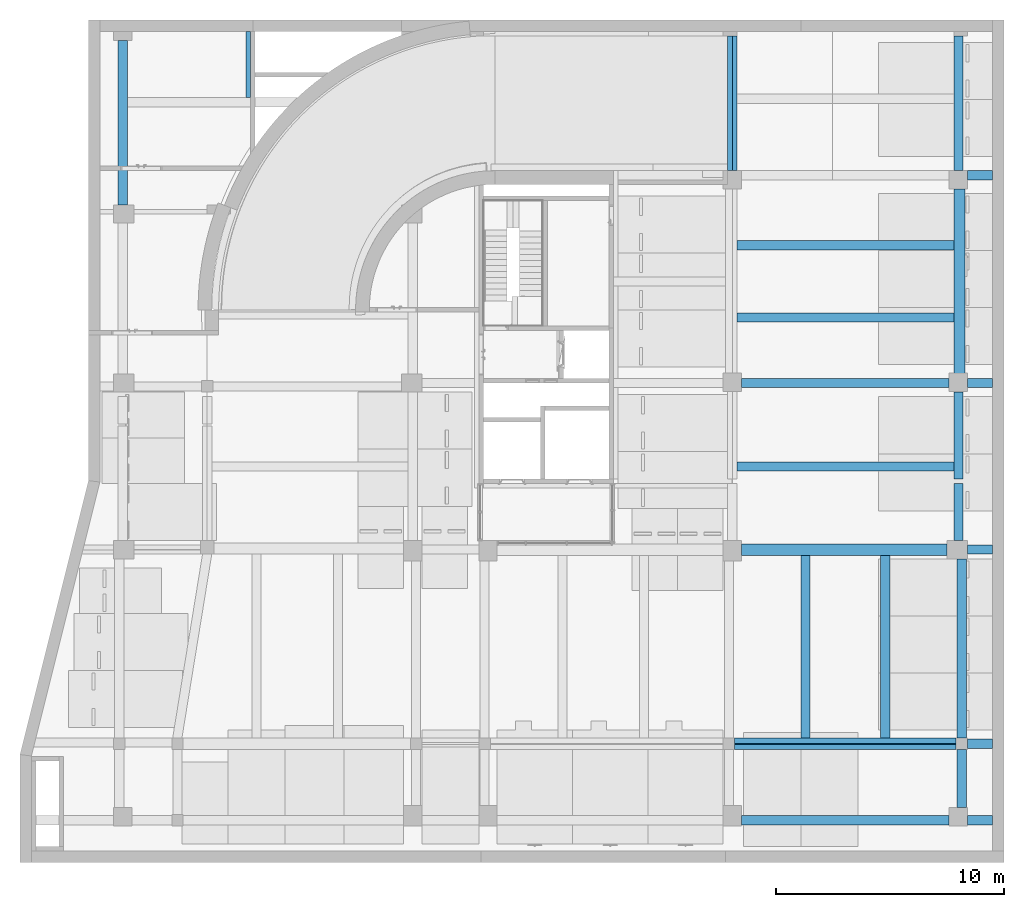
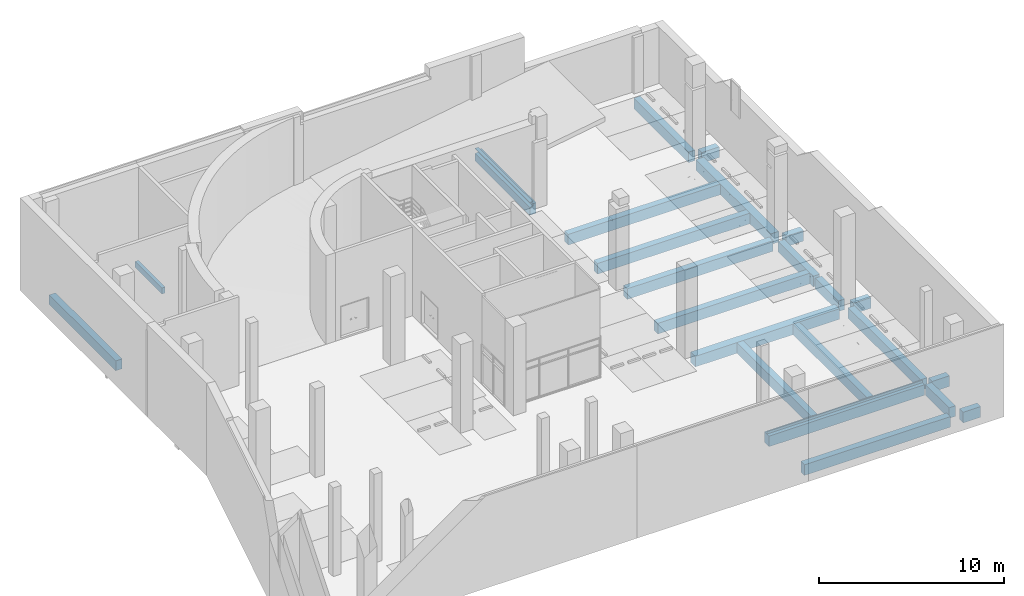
# One storey, part 4 of 29: 22 beams.
"""IFC2X3 building model written with IfcOpenShell, lengths in millimetres."""

from ifc_helpers import new_model, entity, si_unit, converted_unit, derived_unit, direction, frame, frame_2d, origin, origin_2d_with_axis, place, context, subcontext, project, spatial, polyline, rectangle, outline, extrude, source, transform, mapped, material, material_list, type_object, type_shapes, element, save


model = new_model("IFC2X3")

# Units and contexts
model_context = context("Model", 3, precision=0.01, world=origin(), true_north=direction((6.123031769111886e-17, 1.0)))
body_context = subcontext(model_context, "Body", "Model", "MODEL_VIEW")
ifc_project = project(units=[si_unit("LENGTHUNIT", "METRE", prefix="MILLI"), si_unit("AREAUNIT", "SQUARE_METRE"), si_unit("VOLUMEUNIT", "CUBIC_METRE"), converted_unit("PLANEANGLEUNIT", "DEGREE", entity("IfcRatioMeasure", 0.017453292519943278), si_unit("PLANEANGLEUNIT", "RADIAN"), dimensions=[0, 0, 0, 0, 0, 0, 0]), si_unit("MASSUNIT", "GRAM", prefix="KILO"), derived_unit("MASSDENSITYUNIT", [(si_unit("MASSUNIT", "GRAM", prefix="KILO"), 1), (si_unit("LENGTHUNIT", "METRE"), -3)]), derived_unit("MOMENTOFINERTIAUNIT", [(si_unit("LENGTHUNIT", "METRE"), 4)]), si_unit("TIMEUNIT", "SECOND"), si_unit("FREQUENCYUNIT", "HERTZ"), si_unit("THERMODYNAMICTEMPERATUREUNIT", "DEGREE_CELSIUS"), derived_unit("THERMALTRANSMITTANCEUNIT", [(si_unit("MASSUNIT", "GRAM", prefix="KILO"), 1), (si_unit("THERMODYNAMICTEMPERATUREUNIT", "KELVIN"), -1), (si_unit("TIMEUNIT", "SECOND"), -3)]), derived_unit("VOLUMETRICFLOWRATEUNIT", [(si_unit("LENGTHUNIT", "METRE"), 3), (si_unit("TIMEUNIT", "SECOND"), -1)]), derived_unit("MASSFLOWRATEUNIT", [(si_unit("MASSUNIT", "GRAM", prefix="KILO"), 1), (si_unit("TIMEUNIT", "SECOND"), -1)]), derived_unit("ROTATIONALFREQUENCYUNIT", [(si_unit("TIMEUNIT", "SECOND"), -1)]), si_unit("ELECTRICCURRENTUNIT", "AMPERE"), si_unit("ELECTRICVOLTAGEUNIT", "VOLT"), si_unit("POWERUNIT", "WATT"), si_unit("FORCEUNIT", "NEWTON", prefix="KILO"), si_unit("ILLUMINANCEUNIT", "LUX"), si_unit("LUMINOUSFLUXUNIT", "LUMEN"), si_unit("LUMINOUSINTENSITYUNIT", "CANDELA"), derived_unit("USERDEFINED", [(si_unit("MASSUNIT", "GRAM", prefix="KILO"), -1), (si_unit("LENGTHUNIT", "METRE"), -2), (si_unit("TIMEUNIT", "SECOND"), 3), (si_unit("LUMINOUSFLUXUNIT", "LUMEN"), 1)]), derived_unit("SOUNDPOWERUNIT", [(si_unit("MASSUNIT", "GRAM", prefix="KILO"), 1), (si_unit("LENGTHUNIT", "METRE"), 2), (si_unit("TIMEUNIT", "SECOND"), -3)]), derived_unit("SOUNDPRESSUREUNIT", [(si_unit("MASSUNIT", "GRAM", prefix="KILO"), 1), (si_unit("LENGTHUNIT", "METRE"), -1), (si_unit("TIMEUNIT", "SECOND"), -2)]), derived_unit("LINEARVELOCITYUNIT", [(si_unit("LENGTHUNIT", "METRE"), 1), (si_unit("TIMEUNIT", "SECOND"), -1)]), si_unit("PRESSUREUNIT", "PASCAL"), derived_unit("USERDEFINED", [(si_unit("LENGTHUNIT", "METRE"), -2), (si_unit("MASSUNIT", "GRAM", prefix="KILO"), 1), (si_unit("TIMEUNIT", "SECOND"), -2)]), derived_unit("LINEARFORCEUNIT", [(si_unit("MASSUNIT", "GRAM", prefix="KILO"), 1), (si_unit("LENGTHUNIT", "METRE"), 1), (si_unit("TIMEUNIT", "SECOND"), -2), (si_unit("LENGTHUNIT", "METRE"), -1)]), derived_unit("PLANARFORCEUNIT", [(si_unit("MASSUNIT", "GRAM", prefix="KILO"), 1), (si_unit("LENGTHUNIT", "METRE"), 1), (si_unit("TIMEUNIT", "SECOND"), -2), (si_unit("LENGTHUNIT", "METRE"), -2)])], contexts=[model_context])

# Site, building, storey
site_placement = place(None, frame((-14167.972527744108, -657.2125860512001, 0.0)))
site = spatial("IfcSite", under=ifc_project, at=site_placement, Name="Default", CompositionType="ELEMENT")
building_placement = place(site_placement, origin())
building = spatial("IfcBuilding", under=site, at=building_placement, Name="Sample Building", CompositionType="ELEMENT")
storey_placement = place(building_placement, frame((0.0, 0.0, -6100.0)))
storey = spatial("IfcBuildingStorey", under=building, at=storey_placement, Name="지하1층", CompositionType="ELEMENT", Elevation=-6099.999999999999)

# Beams
ifc_material = material(Name="KBIMS-콘크리트")
beam_type_1 = type_object("IfcBeamType", Name="BM111-철근콘크리트구조 보:BM110-철근 콘크리트구조 보_400 x 850_B1-1G3", PredefinedType="NOTDEFINED")
beam_1_placement = place(storey_placement, frame((52817.97249113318, 807.212604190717, 0.0), z_axis=(0.0, 0.0, 1.0), x_axis=(-1.0, 0.0, 0.0)))
element("IfcBeam", 1, at=beam_1_placement, inside=storey, type_object=beam_type_1, material=ifc_material, Name="BM111-철근콘크리트구조 보:BM110-철근 콘크리트구조 보_400 x 850_B1-1G3", ObjectType="BM111-철근콘크리트구조 보:BM110-철근 콘크리트구조 보_400 x 850_B1-1G3", context=body_context, shape_type="SweptSolid", body=[
    extrude(rectangle(XDim=700.0000000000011, YDim=400.0000000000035, at=frame_2d((0.0, -4.405364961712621e-13), x_axis=(1.0, 0.0))), frame((250.0, 0.0, -500.0), z_axis=(1.0, 0.0, 0.0), x_axis=(0.0, 0.0, -1.0)), (0.0, 0.0, 1.0), 1100.0086530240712),
])
beam_2_placement = place(storey_placement, frame((52817.97249113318, 4157.212692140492, 0.0), z_axis=(0.0, 0.0, 1.0), x_axis=(-1.0, 0.0, 0.0)))
element("IfcBeam", 2, at=beam_2_placement, inside=storey, type_object=beam_type_1, material=ifc_material, Name="BM111-철근콘크리트구조 보:BM110-철근 콘크리트구조 보_400 x 850_B1-1G3", ObjectType="BM111-철근콘크리트구조 보:BM110-철근 콘크리트구조 보_400 x 850_B1-1G3", context=body_context, shape_type="SweptSolid", body=[
    extrude(rectangle(XDim=700.0000000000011, YDim=400.00000000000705, at=frame_2d((0.0, 8.100187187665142e-13), x_axis=(1.0, 0.0))), frame((250.0, 0.0, -500.0), z_axis=(1.0, 0.0, 0.0), x_axis=(0.0, 0.0, -1.0)), (0.0, 0.0, 1.0), 1100.0086530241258),
])
beam_3_placement = place(storey_placement, frame((51067.96288544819, 12657.212617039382, 0.0)))
element("IfcBeam", 3, at=beam_3_placement, inside=storey, type_object=beam_type_1, material=ifc_material, Name="BM111-철근콘크리트구조 보:BM110-철근 콘크리트구조 보_400 x 850_B1-1G3", ObjectType="BM111-철근콘크리트구조 보:BM110-철근 콘크리트구조 보_400 x 850_B1-1G3", context=body_context, shape_type="SweptSolid", body=[
    extrude(rectangle(XDim=700.0000000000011, YDim=400.0000000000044, at=origin_2d_with_axis()), frame((400.000952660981, 0.0, -500.0), z_axis=(1.0, 0.0, 0.0), x_axis=(0.0, 0.0, -1.0)), (0.0, 0.0, 1.0), 1100.0086530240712),
])
beam_4_placement = place(storey_placement, frame((51467.95513594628, 19957.212617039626, 0.0)))
element("IfcBeam", 4, at=beam_4_placement, inside=storey, type_object=beam_type_1, material=ifc_material, Name="BM111-철근콘크리트구조 보:BM110-철근 콘크리트구조 보_400 x 850_B1-1G3", ObjectType="BM111-철근콘크리트구조 보:BM110-철근 콘크리트구조 보_400 x 850_B1-1G3", context=body_context, shape_type="SweptSolid", body=[
    extrude(rectangle(XDim=700.0000000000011, YDim=400.0000000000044, at=origin_2d_with_axis()), frame((0.0, 0.0, -500.0), z_axis=(1.0, 0.0, 0.0), x_axis=(0.0, 0.0, -1.0)), (0.0, 0.0, 1.0), 1100.0173551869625),
])
beam_5_placement = place(storey_placement, frame((51217.96383810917, 1357.2127049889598, 0.0), z_axis=(0.0, 0.0, 1.0), x_axis=(0.0, 1.0, 0.0)))
element("IfcBeam", 5, at=beam_5_placement, inside=storey, type_object=beam_type_1, material=ifc_material, Name="BM111-철근콘크리트구조 보:BM110-철근 콘크리트구조 보_400 x 850_B1-1G3", ObjectType="BM111-철근콘크리트구조 보:BM110-철근 콘크리트구조 보_400 x 850_B1-1G3", context=body_context, shape_type="SweptSolid", body=[
    extrude(rectangle(XDim=700.0000000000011, YDim=400.0000000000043, at=frame_2d((0.0, 4.334310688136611e-12), x_axis=(1.0, 0.0))), frame((0.0, 0.0, -500.0), z_axis=(1.0, 0.0, 0.0), x_axis=(0.0, 0.0, -1.0)), (0.0, 0.0, 1.0), 2549.999987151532),
])
beam_6_placement = place(storey_placement, frame((51467.9551359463, 29057.21261703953, 0.0)))
element("IfcBeam", 6, at=beam_6_placement, inside=storey, type_object=beam_type_1, material=ifc_material, Name="BM111-철근콘크리트구조 보:BM110-철근 콘크리트구조 보_400 x 850_B1-1G3", ObjectType="BM111-철근콘크리트구조 보:BM110-철근 콘크리트구조 보_400 x 850_B1-1G3", context=body_context, shape_type="SweptSolid", body=[
    extrude(rectangle(XDim=700.0000000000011, YDim=400.0000000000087, at=frame_2d((0.0, -2.1600499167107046e-12), x_axis=(1.0, 0.0))), frame((0.0, 0.0, -500.0), z_axis=(1.0, 0.0, 0.0), x_axis=(0.0, 0.0, -1.0)), (0.0, 0.0, 1.0), 1100.0173551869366),
])
beam_type_2 = type_object("IfcBeamType", Name="BM111-철근콘크리트구조 보:BM110-철근 콘크리트구조 보_400 x 850_B1-1G1", PredefinedType="NOTDEFINED")
beam_7_placement = place(storey_placement, frame((51117.95513594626, 807.212604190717, 0.0), z_axis=(0.0, 0.0, 1.0), x_axis=(-1.0, 0.0, 0.0)))
element("IfcBeam", 7, at=beam_7_placement, inside=storey, type_object=beam_type_2, material=ifc_material, Name="BM111-철근콘크리트구조 보:BM110-철근 콘크리트구조 보_400 x 850_B1-1G1", ObjectType="BM111-철근콘크리트구조 보:BM110-철근 콘크리트구조 보_400 x 850_B1-1G1", context=body_context, shape_type="SweptSolid", body=[
    extrude(rectangle(XDim=700.0000000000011, YDim=400.00000000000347, at=frame_2d((0.0, -1.7053025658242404e-13), x_axis=(1.0, 0.0))), frame((449.9912978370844, 0.0, -500.0), z_axis=(1.0, 0.0, 0.0), x_axis=(0.0, 0.0, -1.0)), (0.0, 0.0, 1.0), 9098.5749005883),
])
beam_8_placement = place(storey_placement, frame((41560.65512202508, 19957.212617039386, 0.0)))
element("IfcBeam", 8, at=beam_8_placement, inside=storey, type_object=beam_type_2, material=ifc_material, Name="BM111-철근콘크리트구조 보:BM110-철근 콘크리트구조 보_400 x 850_B1-1G1", ObjectType="BM111-철근콘크리트구조 보:BM110-철근 콘크리트구조 보_400 x 850_B1-1G1", context=body_context, shape_type="SweptSolid", body=[
    extrude(rectangle(XDim=700.0000000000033, YDim=400.00000000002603, at=frame_2d((-1.0800249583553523e-12, -1.5162981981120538e-11), x_axis=(1.0, 0.0))), frame((7.300019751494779, 0.0, -500.0), z_axis=(1.0, 0.0, 0.0), x_axis=(0.0, 0.0, -1.0)), (0.0, 0.0, 1.0), 9100.008723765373),
])
beam_type_3 = type_object("IfcBeamType", Name="BM111-철근콘크리트구조 보:BM110-철근 콘크리트구조 보_500 x 850_B1-1G5", PredefinedType="NOTDEFINED")
beam_9_placement = place(storey_placement, frame((51117.95513594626, 4157.2126921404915, 0.0), z_axis=(0.0, 0.0, 1.0), x_axis=(-1.0, 0.0, 0.0)))
element("IfcBeam", 9, at=beam_9_placement, inside=storey, type_object=beam_type_3, material=ifc_material, Name="BM111-철근콘크리트구조 보:BM110-철근 콘크리트구조 보_500 x 850_B1-1G5", ObjectType="BM111-철근콘크리트구조 보:BM110-철근 콘크리트구조 보_500 x 850_B1-1G5", context=body_context, shape_type="SweptSolid", body=[
    extrude(outline(polyline([(-137.5000000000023, -256.0635451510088), (562.500000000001, -256.0635451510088), (562.500000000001, 243.93645484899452), (-137.50000000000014, 243.93645484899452), (-137.50000000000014, 18.190326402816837), (-287.4999999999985, 18.190326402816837), (-287.4999999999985, -6.063236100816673), (-137.5000000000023, -6.063236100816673), (-137.5000000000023, -256.0635451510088)])), frame((149.99129783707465, 6.063545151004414, -287.5000000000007), z_axis=(1.0, 0.0, 0.0), x_axis=(0.0, 0.0, -1.0)), (0.0, 0.0, 1.0), 9700.008696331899),
])
beam_10_placement = place(storey_placement, frame((51067.96288544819, 12657.212617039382, 0.0), z_axis=(0.0, 0.0, 1.0), x_axis=(-1.0, 0.0, 0.0)))
element("IfcBeam", 10, at=beam_10_placement, inside=storey, type_object=beam_type_3, material=ifc_material, Name="BM111-철근콘크리트구조 보:BM110-철근 콘크리트구조 보_500 x 850_B1-1G5", ObjectType="BM111-철근콘크리트구조 보:BM110-철근 콘크리트구조 보_500 x 850_B1-1G5", context=body_context, shape_type="SweptSolid", body=[
    extrude(rectangle(XDim=700.0000000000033, YDim=500.0000000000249, at=frame_2d((-1.0800249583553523e-12, -1.5162981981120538e-11), x_axis=(1.0, 0.0))), frame((499.99904733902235, 0.0, -500.0), z_axis=(1.0, 0.0, 0.0), x_axis=(0.0, 0.0, -1.0)), (0.0, 0.0, 1.0), 9000.008803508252),
])
beam_11_placement = place(storey_placement, frame((51117.95547132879, 28457.212620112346, 0.0), z_axis=(0.0, 0.0, 1.0), x_axis=(0.0, -1.0, 0.0)))
element("IfcBeam", 11, at=beam_11_placement, inside=storey, type_object=beam_type_3, material=ifc_material, Name="BM111-철근콘크리트구조 보:BM110-철근 콘크리트구조 보_500 x 850_B1-1G5", ObjectType="BM111-철근콘크리트구조 보:BM110-철근 콘크리트구조 보_500 x 850_B1-1G5", context=body_context, shape_type="SweptSolid", body=[
    extrude(rectangle(XDim=700.0000000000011, YDim=499.999999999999, at=frame_2d((0.0, -4.334310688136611e-12), x_axis=(1.0, 0.0))), frame((0.0, 0.0, -500.0), z_axis=(1.0, 0.0, 0.0), x_axis=(0.0, 0.0, -1.0)), (0.0, 0.0, 1.0), 8100.000003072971),
])
ifc_material_list = material_list([ifc_material, ifc_material])
beam_type_4 = type_object("IfcBeamType", Name="BM111-철근콘크리트구조 보:BM110-철근 콘크리트구조 보_400 x 850_B1-1G2", PredefinedType="BEAM", material=ifc_material_list)
beam_12_placement = place(storey_placement, frame((51217.96383810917, 12657.212617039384, 0.0), z_axis=(0.0, 0.0, 1.0), x_axis=(0.0, -1.0, 0.0)))
element("IfcBeam", 12, at=beam_12_placement, inside=storey, type_object=beam_type_4, material=ifc_material, Name="BM111-철근콘크리트구조 보:BM110-철근 콘크리트구조 보_400 x 850_B1-1G2", ObjectType="BM111-철근콘크리트구조 보:BM110-철근 콘크리트구조 보_400 x 850_B1-1G2", context=body_context, shape_type="SweptSolid", body=[
    extrude(rectangle(XDim=700.0000000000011, YDim=400.0000000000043, at=frame_2d((0.0, 4.334310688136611e-12), x_axis=(1.0, 0.0))), frame((399.99957810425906, 0.0, -500.0), z_axis=(1.0, 0.0, 0.0), x_axis=(0.0, 0.0, -1.0)), (0.0, 0.0, 1.0), 7850.000346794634),
])
beam_type_5 = type_object("IfcBeamType", Name="BM111-철근콘크리트구조 보:BM110-철근 콘크리트구조 보_400 x 800_B1-1B2", PredefinedType="NOTDEFINED")
beam_13_placement = place(storey_placement, frame((44367.9464487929, 12657.212617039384, 0.0), z_axis=(0.0, 0.0, 1.0), x_axis=(0.0, -1.0, 0.0)))
element("IfcBeam", 13, at=beam_13_placement, inside=storey, type_object=beam_type_5, material=ifc_material, Name="BM111-철근콘크리트구조 보:BM110-철근 콘크리트구조 보_400 x 800_B1-1B2", ObjectType="BM111-철근콘크리트구조 보:BM110-철근 콘크리트구조 보_400 x 800_B1-1B2", context=body_context, shape_type="SweptSolid", body=[
    extrude(rectangle(XDim=700.0000000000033, YDim=400.0000000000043, at=frame_2d((-1.0800249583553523e-12, 0.0), x_axis=(1.0, 0.0))), frame((250.0, 0.0, -500.0), z_axis=(1.0, 0.0, 0.0), x_axis=(0.0, 0.0, -1.0)), (0.0, 0.0, 1.0), 7999.999924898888),
])
beam_14_placement = place(storey_placement, frame((47867.946448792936, 12657.212617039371, 0.0), z_axis=(0.0, 0.0, 1.0), x_axis=(0.0, -1.0, 0.0)))
element("IfcBeam", 14, at=beam_14_placement, inside=storey, type_object=beam_type_5, material=ifc_material, Name="BM111-철근콘크리트구조 보:BM110-철근 콘크리트구조 보_400 x 800_B1-1B2", ObjectType="BM111-철근콘크리트구조 보:BM110-철근 콘크리트구조 보_400 x 800_B1-1B2", context=body_context, shape_type="SweptSolid", body=[
    extrude(rectangle(XDim=700.0000000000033, YDim=400.0000000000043, at=frame_2d((-1.0800249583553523e-12, 0.0), x_axis=(1.0, 0.0))), frame((250.0, 0.0, -500.0), z_axis=(1.0, 0.0, 0.0), x_axis=(0.0, 0.0, -1.0)), (0.0, 0.0, 1.0), 7999.99992489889),
])
beam_type_6 = type_object("IfcBeamType", Name="BM111-철근콘크리트구조 보:BM110-철근 콘크리트구조 보_400 x 850_B1-1G4", PredefinedType="NOTDEFINED")
beam_15_placement = place(storey_placement, frame((51067.962965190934, 29257.21278986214, 0.0), z_axis=(0.0, 0.0, 1.0), x_axis=(0.0, 1.0, 0.0)))
element("IfcBeam", 15, at=beam_15_placement, inside=storey, type_object=beam_type_6, material=ifc_material, Name="BM111-철근콘크리트구조 보:BM110-철근 콘크리트구조 보_400 x 850_B1-1G4", ObjectType="BM111-철근콘크리트구조 보:BM110-철근 콘크리트구조 보_400 x 850_B1-1G4", context=body_context, shape_type="SweptSolid", body=[
    extrude(rectangle(XDim=700.0000000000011, YDim=400.0000000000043, at=frame_2d((0.0, 4.334310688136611e-12), x_axis=(1.0, 0.0))), frame((0.0, 0.0, -500.0), z_axis=(1.0, 0.0, 0.0), x_axis=(0.0, 0.0, -1.0)), (0.0, 0.0, 1.0), 5900.000000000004),
])
beam_type_7 = type_object("IfcBeamType", Name="BM111-철근콘크리트구조 보:BM110-철근 콘크리트구조 보_400 x 850_B1-1B1", PredefinedType="BEAM", material=ifc_material)
beam_16_placement = place(storey_placement, frame((41167.96296519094, 16307.21261704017, 0.0)))
element("IfcBeam", 16, at=beam_16_placement, inside=storey, type_object=beam_type_7, material=ifc_material, Name="BM111-철근콘크리트구조 보:BM110-철근 콘크리트구조 보_400 x 850_B1-1B1", ObjectType="BM111-철근콘크리트구조 보:BM110-철근 콘크리트구조 보_400 x 850_B1-1B1", context=body_context, shape_type="SweptSolid", body=[
    extrude(rectangle(XDim=700.0000000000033, YDim=400.00000000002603, at=frame_2d((-1.0800249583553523e-12, -1.7323031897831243e-11), x_axis=(1.0, 0.0))), frame((200.0, 0.0, -500.0), z_axis=(1.0, 0.0, 0.0), x_axis=(0.0, 0.0, -1.0)), (0.0, 0.0, 1.0), 9500.000000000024),
])
beam_17_placement = place(storey_placement, frame((41117.962965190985, 22823.87928370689, 0.0)))
element("IfcBeam", 17, at=beam_17_placement, inside=storey, type_object=beam_type_7, material=ifc_material, Name="BM111-철근콘크리트구조 보:BM110-철근 콘크리트구조 보_400 x 850_B1-1B1", ObjectType="BM111-철근콘크리트구조 보:BM110-철근 콘크리트구조 보_400 x 850_B1-1B1", context=body_context, shape_type="SweptSolid", body=[
    extrude(rectangle(XDim=700.0000000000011, YDim=400.00000000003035, at=frame_2d((0.0, -1.7323031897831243e-11), x_axis=(1.0, 0.0))), frame((250.0, 0.0, -500.0), z_axis=(1.0, 0.0, 0.0), x_axis=(0.0, 0.0, -1.0)), (0.0, 0.0, 1.0), 9499.992506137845),
])
beam_18_placement = place(storey_placement, frame((41117.96296519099, 25990.54595037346, 0.0)))
element("IfcBeam", 18, at=beam_18_placement, inside=storey, type_object=beam_type_7, material=ifc_material, Name="BM111-철근콘크리트구조 보:BM110-철근 콘크리트구조 보_400 x 850_B1-1B1", ObjectType="BM111-철근콘크리트구조 보:BM110-철근 콘크리트구조 보_400 x 850_B1-1B1", context=body_context, shape_type="SweptSolid", body=[
    extrude(rectangle(XDim=700.0000000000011, YDim=400.0000000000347, at=frame_2d((0.0, -2.3817392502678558e-11), x_axis=(1.0, 0.0))), frame((250.0, 0.0, -500.0), z_axis=(1.0, 0.0, 0.0), x_axis=(0.0, 0.0, -1.0)), (0.0, 0.0, 1.0), 9499.992506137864),
])
beam_type_8 = type_object("IfcBeamType", Name="BM111-철근콘크리트구조 보:BM110-철근 콘크리트구조 보_400 x 850_B1-1WG1", PredefinedType="BEAM", material=ifc_material)
beam_19_placement = place(storey_placement, frame((14467.955105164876, 27157.21261704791, 0.0), z_axis=(0.0, 0.0, 1.0), x_axis=(0.0, 1.0, 0.0)))
element("IfcBeam", 19, at=beam_19_placement, inside=storey, type_object=beam_type_8, material=ifc_material, Name="BM111-철근콘크리트구조 보:BM110-철근 콘크리트구조 보_400 x 850_B1-1WG1", ObjectType="BM111-철근콘크리트구조 보:BM110-철근 콘크리트구조 보_400 x 850_B1-1WG1", context=body_context, shape_type="SweptSolid", body=[
    extrude(rectangle(XDim=650.0000000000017, YDim=400.0000000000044, at=frame_2d((1.0800249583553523e-12, 0.0), x_axis=(1.0, 0.0))), frame((600.0, 0.0, -525.0), z_axis=(1.0, 0.0, 0.0), x_axis=(0.0, 0.0, -1.0)), (0.0, 0.0, 1.0), 7199.999972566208),
])
beam_type_9 = type_object("IfcBeamType", Name="BM111-철근콘크리트구조 보:BM110-철근 콘크리트구조 보_400 x 850_B1-1G4", PredefinedType="BEAM", material=ifc_material)
shared_shape_1 = source(origin(), body_context, "Body", "SweptSolid", [
    extrude(rectangle(XDim=700.0000000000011, YDim=400.0000000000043, at=frame_2d((-4.334310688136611e-12, 1.0800249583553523e-12), x_axis=(0.0, 1.0))), frame((51067.96296519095, 15757.21258605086, -6600.0), z_axis=(0.0, 1.0, 0.0), x_axis=(-1.0, 0.0, 0.0)), (0.0, 0.0, 1.0), 3800.00003098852),
    extrude(rectangle(XDim=700.0000000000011, YDim=400.0000000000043, at=frame_2d((-4.334310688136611e-12, 1.0800249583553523e-12), x_axis=(0.0, 1.0))), frame((51067.962965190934, 13057.213038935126, -6600.0), z_axis=(0.0, 1.0, 0.0), x_axis=(-1.0, 0.0, 0.0)), (0.0, 0.0, 1.0), 2499.9995471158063),
])
type_shapes(beam_type_9, [shared_shape_1])
beam_20_placement = place(storey_placement, frame((0.0, 0.0, 6100.0)))
element("IfcBeam", 20, at=beam_20_placement, inside=storey, type_object=beam_type_9, material=ifc_material, Name="BM111-철근콘크리트구조 보:BM110-철근 콘크리트구조 보_400 x 850_B1-1G4", ObjectType="BM111-철근콘크리트구조 보:BM110-철근 콘크리트구조 보_400 x 850_B1-1G4", context=body_context, shape_type="MappedRepresentation", body=[
    mapped(shared_shape_1, transform((0.0, 0.0, 0.0), scale=1.0)),
])
beam_type_10 = type_object("IfcBeamType", Name="BM111-철근콘크리트구조 보:BM110-철근 콘크리트구조 보_400 x 600_B1B4", PredefinedType="NOTDEFINED")
beam_21_placement = place(storey_placement, frame((20067.95514177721, 32255.666789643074, 0.0), z_axis=(0.0, 0.0, 1.0), x_axis=(0.0, 1.0, 0.0)))
element("IfcBeam", 21, at=beam_21_placement, inside=storey, type_object=beam_type_10, material=ifc_material, Name="BM111-철근콘크리트구조 보:BM110-철근 콘크리트구조 보_400 x 600_B1B4", ObjectType="BM111-철근콘크리트구조 보:BM110-철근 콘크리트구조 보_400 x 600_B1B4", context=body_context, shape_type="SweptSolid", body=[
    extrude(rectangle(XDim=400.00000000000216, YDim=200.01734935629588, at=frame_2d((1.0800249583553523e-12, -8.446932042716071e-11), x_axis=(1.0, 0.0))), frame((200.0, 99.99132532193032, -400.0), z_axis=(1.0, 0.0, 0.0), x_axis=(0.0, 0.0, -1.0)), (0.0, 0.0, 1.0), 2901.5108347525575),
])
beam_type_11 = type_object("IfcBeamType", Name="BM111-철근콘크리트구조 보:BM110-철근 콘크리트구조 보_400 x 850_B1-1G4", PredefinedType="BEAM", material=ifc_material)
shared_shape_2 = source(origin(), body_context, "Body", "SweptSolid", [
    extrude(outline(polyline([(-21.98819934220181, -66.6724497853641), (10.994099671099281, -66.6724497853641), (10.994099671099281, 133.34489957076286), (-21.98819934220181, -66.6724497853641)])), frame((41034.63541497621, 29257.212789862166, -6110.994099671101), z_axis=(0.0, 1.0, 0.0), x_axis=(0.0, 0.0, 1.0)), (0.0, 0.0, 1.0), 5900.000000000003),
    extrude(outline(polyline([(-199.99421688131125, -409.8191810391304), (200.0057831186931, -409.8191810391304), (200.0057831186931, 103.14721257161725), (-0.011566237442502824, 136.1295115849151), (-0.011566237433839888, 290.18081896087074), (-199.99421688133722, 290.18081896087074), (-199.99421688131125, -409.8191810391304)])), frame((41167.96874830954, 29257.212307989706, -6540.180818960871), z_axis=(0.0, 1.0, 0.0), x_axis=(-1.0, 0.0, 0.0)), (0.0, 0.0, 1.0), 5900.000481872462),
])
type_shapes(beam_type_11, [shared_shape_2])
beam_22_placement = place(storey_placement, frame((0.0, 0.0, 6100.0)))
element("IfcBeam", 22, at=beam_22_placement, inside=storey, type_object=beam_type_11, material=ifc_material, Name="BM111-철근콘크리트구조 보:BM110-철근 콘크리트구조 보_400 x 850_B1-1G4", ObjectType="BM111-철근콘크리트구조 보:BM110-철근 콘크리트구조 보_400 x 850_B1-1G4", context=body_context, shape_type="MappedRepresentation", body=[
    mapped(shared_shape_2, transform((0.0, 0.0, 0.0), scale=1.0)),
])

save(model, "model.ifc")
